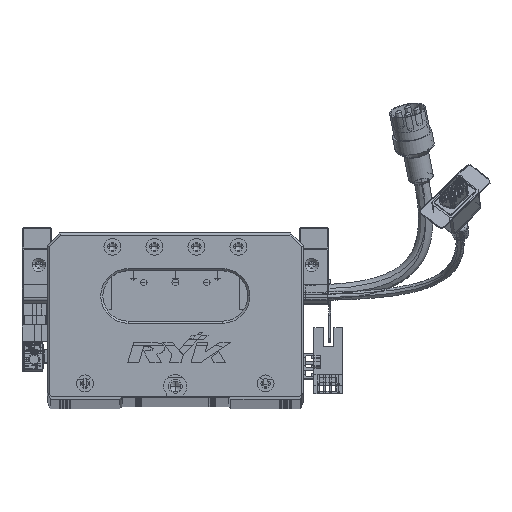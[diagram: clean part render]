
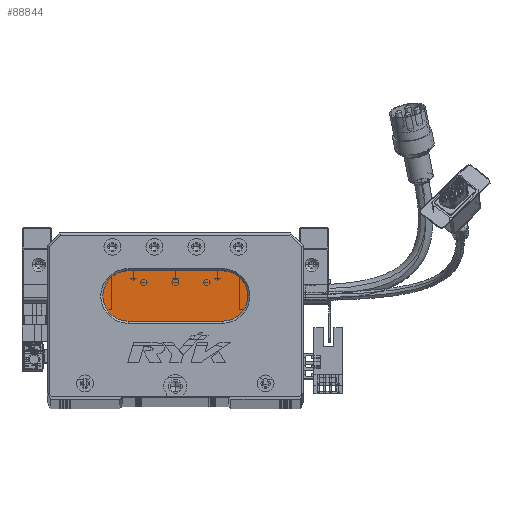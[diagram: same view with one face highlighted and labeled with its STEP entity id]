
A CAD part, top view. The second image highlights one B-rep face of the part: STEP entity #88844.
In plain terms, the highlighted planar face has unit normal (0, 0, 1) as drawn and (0, 0, -1) by its records, which use the part's own axes.
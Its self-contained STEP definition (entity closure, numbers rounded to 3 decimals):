
#570 = AXIS2_PLACEMENT_3D ( 'NONE', #37772, #97361, #124844 ) ;
#1400 = DIRECTION ( 'NONE',  ( 1., 0., 0. ) ) ;
#2380 = DIRECTION ( 'NONE',  ( -1., 0., 0. ) ) ;
#2718 = CIRCLE ( 'NONE', #25402, 12. ) ;
#3322 = EDGE_CURVE ( 'NONE', #22798, #83203, #41528, .T. ) ;
#4219 = DIRECTION ( 'NONE',  ( 0., 0., -1. ) ) ;
#7151 = AXIS2_PLACEMENT_3D ( 'NONE', #99631, #119090, #2380 ) ;
#17205 = ORIENTED_EDGE ( 'NONE', *, *, #3322, .T. ) ;
#18786 = CARTESIAN_POINT ( 'NONE',  ( 26.5, 48., 13. ) ) ;
#19345 = DIRECTION ( 'NONE',  ( -1., 0., 0. ) ) ;
#22798 = VERTEX_POINT ( 'NONE', #38588 ) ;
#25402 = AXIS2_PLACEMENT_3D ( 'NONE', #100625, #4219, #61358 ) ;
#28215 = CARTESIAN_POINT ( 'NONE',  ( 83.5, 36., 13. ) ) ;
#28247 = FACE_OUTER_BOUND ( 'NONE', #44523, .T. ) ;
#31975 = PLANE ( 'NONE',  #7151 ) ;
#32539 = CARTESIAN_POINT ( 'NONE',  ( 83.5, 60., 13. ) ) ;
#32956 = VERTEX_POINT ( 'NONE', #101967 ) ;
#37772 = CARTESIAN_POINT ( 'NONE',  ( 38.5, 48., 13. ) ) ;
#38588 = CARTESIAN_POINT ( 'NONE',  ( 38.5, 60., 13. ) ) ;
#41528 = LINE ( 'NONE', #118099, #73331 ) ;
#41914 = EDGE_CURVE ( 'NONE', #32956, #72348, #2718, .T. ) ;
#43763 = EDGE_CURVE ( 'NONE', #58668, #32956, #90135, .T. ) ;
#44523 = EDGE_LOOP ( 'NONE', ( #83646, #109770, #68702, #80828, #17205 ) ) ;
#46689 = CIRCLE ( 'NONE', #570, 12. ) ;
#52299 = VECTOR ( 'NONE', #19345, 1000. ) ;
#58668 = VERTEX_POINT ( 'NONE', #28215 ) ;
#61358 = DIRECTION ( 'NONE',  ( -1., 0., 0. ) ) ;
#61722 = EDGE_CURVE ( 'NONE', #83203, #58668, #73999, .T. ) ;
#64475 = EDGE_CURVE ( 'NONE', #72348, #22798, #46689, .T. ) ;
#68702 = ORIENTED_EDGE ( 'NONE', *, *, #41914, .T. ) ;
#69315 = AXIS2_PLACEMENT_3D ( 'NONE', #75362, #85944, #123950 ) ;
#72348 = VERTEX_POINT ( 'NONE', #18786 ) ;
#73331 = VECTOR ( 'NONE', #1400, 1000. ) ;
#73999 = CIRCLE ( 'NONE', #69315, 12. ) ;
#75362 = CARTESIAN_POINT ( 'NONE',  ( 83.5, 48., 13. ) ) ;
#76483 = CARTESIAN_POINT ( 'NONE',  ( 83.5, 36., 13. ) ) ;
#80828 = ORIENTED_EDGE ( 'NONE', *, *, #64475, .T. ) ;
#83203 = VERTEX_POINT ( 'NONE', #32539 ) ;
#83646 = ORIENTED_EDGE ( 'NONE', *, *, #61722, .T. ) ;
#85944 = DIRECTION ( 'NONE',  ( 0., 0., -1. ) ) ;
#88844 = ADVANCED_FACE ( 'NONE', ( #28247 ), #31975, .T. ) ;
#90135 = LINE ( 'NONE', #76483, #52299 ) ;
#97361 = DIRECTION ( 'NONE',  ( 0., 0., -1. ) ) ;
#99631 = CARTESIAN_POINT ( 'NONE',  ( 83.5, 48., 13. ) ) ;
#100625 = CARTESIAN_POINT ( 'NONE',  ( 38.5, 48., 13. ) ) ;
#101967 = CARTESIAN_POINT ( 'NONE',  ( 38.5, 36., 13. ) ) ;
#109770 = ORIENTED_EDGE ( 'NONE', *, *, #43763, .T. ) ;
#118099 = CARTESIAN_POINT ( 'NONE',  ( 83.5, 60., 13. ) ) ;
#119090 = DIRECTION ( 'NONE',  ( 0., 0., -1. ) ) ;
#123950 = DIRECTION ( 'NONE',  ( -1., 0., 0. ) ) ;
#124844 = DIRECTION ( 'NONE',  ( -1., 0., 0. ) ) ;
